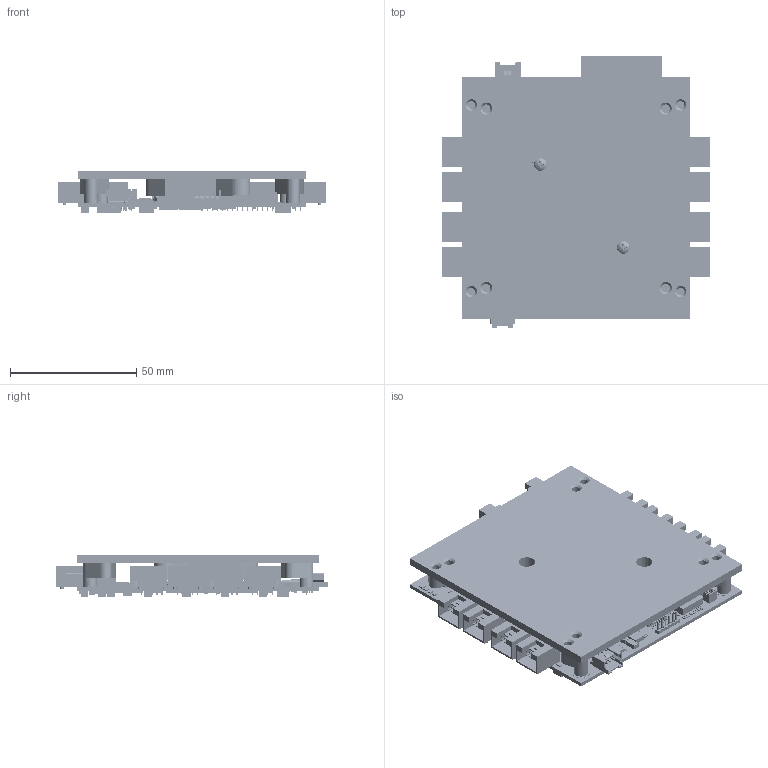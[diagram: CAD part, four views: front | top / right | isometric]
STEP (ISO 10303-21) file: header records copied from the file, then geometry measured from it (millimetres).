
FILE_DESCRIPTION((''),'2;1');
FILE_NAME('7110840_EPS_8100_V10C-300616_ASM','2016-10-12T',('user'),(''),'PRO/ENGINEER BY PARAMETRIC TECHNOLOGY CORPORATION, 2012130','PRO/ENGINEER BY PARAMETRIC TECHNOLOGY CORPORATION, 2012130','');
FILE_SCHEMA(('CONFIG_CONTROL_DESIGN'));
Products named in the file (49): 7110840_EPS_8100_V10C-300616; TSSOP5X4-16-47M; HEATSINK28X28_D3_15; RES_1206_EIA; SOP_4X5_H1_7_P8_EP; BGA60_L9_D8_9X11D5; OSC_5X3_33M; BGA27X27-672-102M; SOT23_GDS; QFN4X7-38; CAP_1206; QFN_6X10_EN5367_H3_P54; IHLP3232DZ; TP30T; SM0402C; POWERDI5; SOIC8EP; TSSOP4X5-16-47M; SW_0805_H_7; SOIC5X5-8_85M; DO-214AC; CAP_1210_EIA; LED1_6SQ-HT0_7_P4; SOT143-48M; RES_0603_EIA; CAP_TANTB; CAP_1206_H1_8; SM0603LED_AC; CAP_0603; RES_0402; IND_0603-HT0_9; CAP_0603-HT0_9_IR; CAP_0402; MH250X125GND; S10B-PUDSS-1_ANY_2; TG111-E12NYNRL_2; S30B-PUDSS-1_ANY_2; 353630460_ANY_2; 353630360_ANY_2; 877590614_ANY_2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
Assembly tree (431 placements, depth 4):
  7110840_EPS_8100_V10C-300616_ASM
    7110840_EPS_8100_V10C-300616
    TSSOP5X4-16-47M  x4
    HEATSINK28X28_D3_15
    RES_1206_EIA
    SOP_4X5_H1_7_P8_EP
    BGA60_L9_D8_9X11D5
    OSC_5X3_33M
    BGA27X27-672-102M
    SOT23_GDS  x2
    QFN4X7-38
    CAP_1206  x4
    QFN_6X10_EN5367_H3_P54
    IHLP3232DZ
    TP30T  x4
    SM0402C  x2
    POWERDI5
    SOIC8EP
    TSSOP4X5-16-47M
    SW_0805_H_7
    SOIC5X5-8_85M
    DO-214AC
    CAP_1210_EIA  x16
    LED1_6SQ-HT0_7_P4  x13
    SOT143-48M
    RES_0603_EIA  x6
    CAP_TANTB  x2
    CAP_1206_H1_8  x2
    SM0603LED_AC  x3
    CAP_0603  x2
    RES_0402  x121
    IND_0603-HT0_9  x9
    CAP_0603-HT0_9_IR  x20
    CAP_0402  x171
    MH250X125GND  x4
    S10B-PUDSS-1_ANY_2  x8
    TG111-E12NYNRL_2  x8
    S30B-PUDSS-1_ANY_2
    353630460_ANY_2
    353630360_ANY_2
    877590614_ANY_2
    1X6PIN_ANY_2
    N25Q_128_3_VOLT_ANY_2
    DF13-2P-1_25DSA_1_ANY_2
    90116A110_M2_5X6_90116A110_ANY_  x2
    NC745__ASM
      NC745___X___ASM
        NC745_DIAMONDSYSTEMS_SP0601_
        GR45
Bounding box: 106.02 x 107.87 x 16.56 mm (x, y, z)
Volume: 66107.5 mm3; surface area: 72549.4 mm2
Topology: 429 solids, 429 shells, 10433 faces, 26980 edges, 17934 vertices
Faces by surface type: plane 7051, cylinder 3330, cone 34, torus 8, bspline 6, sphere 4
Entity records: 161020 total; most frequent: CARTESIAN_POINT 31008, DIRECTION 27650, ORIENTED_EDGE 25456, EDGE_CURVE 12728, AXIS2_PLACEMENT_3D 10040, VERTEX_POINT 8425, VECTOR 7570, LINE 7570
